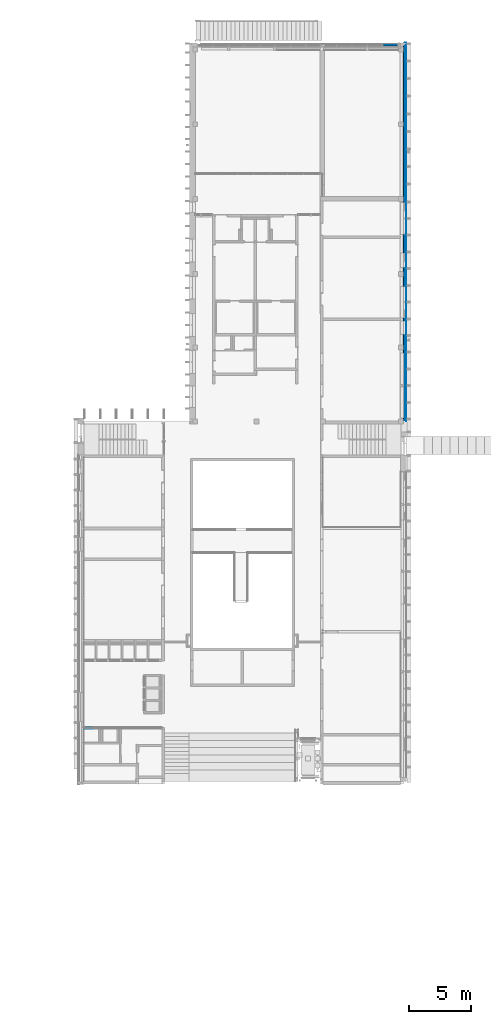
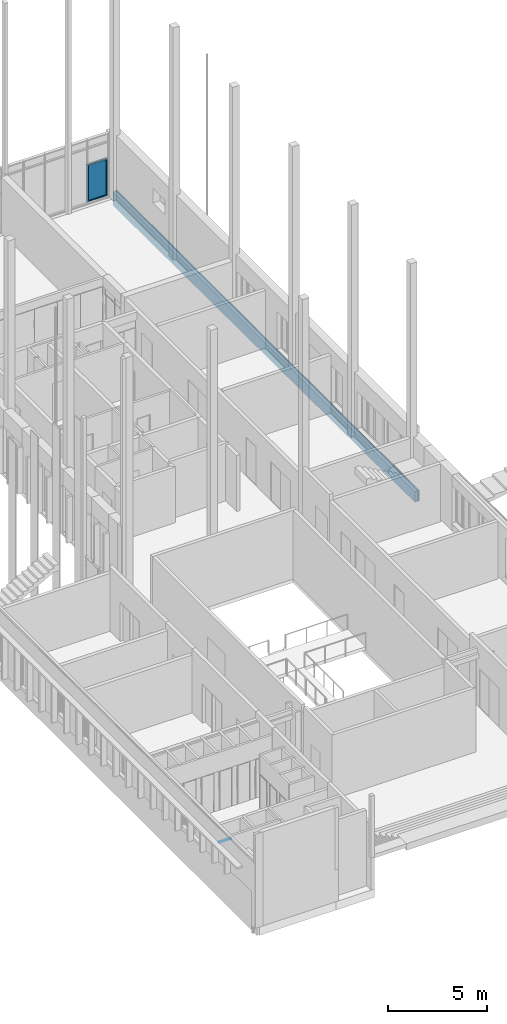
# One storey, part 64 of 89: 7 building element parts, 5 elements without a shape of their own.
"""IFC2X3 building model written with IfcOpenShell, lengths in millimetres."""

from ifc_helpers import new_model, entity, si_unit, converted_unit, derived_unit, money_unit, direction, frame, origin_with_axes, place, context, subcontext, project, spatial, polyline, outline, extrude, boolean, faceted_brep, material, type_object, element, aggregate, save


model = new_model("IFC2X3")

# Units and contexts
model_context = context("Model", 3, precision=0.01, world=origin_with_axes(), true_north=direction((0.0, 1.0)))
body_context = subcontext(model_context, "Body", "Model", "MODEL_VIEW")
ifc_project = project(units=[si_unit("LENGTHUNIT", "METRE", prefix="MILLI"), si_unit("AREAUNIT", "SQUARE_METRE"), si_unit("VOLUMEUNIT", "CUBIC_METRE"), converted_unit("PLANEANGLEUNIT", "DEGREE", entity("IfcPlaneAngleMeasure", 0.0174532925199), si_unit("PLANEANGLEUNIT", "RADIAN"), dimensions=[0, 0, 0, 0, 0, 0, 0]), si_unit("SOLIDANGLEUNIT", "STERADIAN"), money_unit("EUR"), converted_unit("TIMEUNIT", "Year", entity("IfcTimeMeasure", 31556926.0), si_unit("TIMEUNIT", "SECOND"), dimensions=[0, 0, 1, 0, 0, 0, 0]), si_unit("MASSUNIT", "GRAM", prefix="KILO"), si_unit("THERMODYNAMICTEMPERATUREUNIT", "DEGREE_CELSIUS"), si_unit("LUMINOUSINTENSITYUNIT", "LUMEN"), si_unit("ENERGYUNIT", "JOULE", prefix="MEGA"), derived_unit("THERMALCONDUCTANCEUNIT", [(si_unit("POWERUNIT", "WATT"), 1), (si_unit("LENGTHUNIT", "METRE"), -1), (si_unit("THERMODYNAMICTEMPERATUREUNIT", "KELVIN"), -1)]), derived_unit("SPECIFICHEATCAPACITYUNIT", [(si_unit("ENERGYUNIT", "JOULE"), 1), (si_unit("MASSUNIT", "GRAM", prefix="KILO"), -1), (si_unit("THERMODYNAMICTEMPERATUREUNIT", "KELVIN"), -1)]), derived_unit("MASSDENSITYUNIT", [(si_unit("MASSUNIT", "GRAM", prefix="KILO"), 1), (si_unit("VOLUMEUNIT", "CUBIC_METRE"), -1)])], contexts=[model_context])

# Site, building, storey
site_placement = place(None, origin_with_axes())
site = spatial("IfcSite", under=ifc_project, at=site_placement, Name="Puškini 31, Narva", CompositionType="ELEMENT")
building_placement = place(site_placement, origin_with_axes())
building = spatial("IfcBuilding", under=site, at=building_placement, Name="Narva Riigigümnaasium", CompositionType="ELEMENT")
storey_placement = place(building_placement, frame((0.0, 0.0, -3300.0), z_axis=(0.0, 0.0, 1.0), x_axis=(1.0, 0.0, 0.0)))
storey = spatial("IfcBuildingStorey", under=building, at=storey_placement, Name="1.korrus -3.3", CompositionType="ELEMENT", Elevation=-3300.0)

# Curtain wall, plate, building element part
curtain_wall_type = type_object("IfcCurtainWallType", Name="Curtain Wall Type", PredefinedType="NOTDEFINED")
curtain_wall_1_placement = place(storey_placement, frame((28798.9958137, 199279.999716, 0.0), z_axis=(0.0, 0.0, 1.0), x_axis=(1.0, 0.0, 0.0)))
curtain_wall_1 = element("IfcCurtainWall", 1, at=curtain_wall_1_placement, inside=storey, type_object=curtain_wall_type, Name="SUS-01")
plate_type_1 = type_object("IfcPlateType", Name="SA-Siseuksesüsteem-Paneel 700 x 10 x 0", PredefinedType="CURTAIN_PANEL")
plate_1_placement = place(curtain_wall_1_placement, frame((0.0, 0.0, 2394.9999372), z_axis=(0.0, 0.0, 1.0), x_axis=(-1.0, 0.0, 0.0)))
plate_1 = element("IfcPlate", 2, at=plate_1_placement, type_object=plate_type_1, Name="Panel-SA-Siseuks-090", ObjectType="CURTAIN_PANEL")
aggregate(curtain_wall_1, [plate_1])
ifc_material_1 = material(Name="MDF")
building_element_part_1_placement = place(plate_1_placement, origin_with_axes())
building_element_part_1 = element("IfcBuildingElementPart", 3, at=building_element_part_1_placement, material=ifc_material_1, Name="MDF", context=body_context, shape_type="Brep", body=[
    faceted_brep([(-350.004185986, 0.0, 5.0), (350.004185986, 0.0, 5.0), (350.004185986, 9.99999999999, 5.0), (-350.004185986, 9.99999999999, 5.0), (-350.004185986, 0.0, -5.0), (350.004185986, 0.0, -5.0), (350.004185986, 9.99999999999, -5.0), (-350.004185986, 9.99999999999, -5.0)], [[[0, 1, 2, 3]], [[0, 4, 5, 1]], [[1, 5, 6, 2]], [[3, 2, 6, 7]], [[4, 0, 3, 7]], [[5, 4, 7, 6]]]),
    faceted_brep([(-350.004185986, 84.0, 5.0), (350.004185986, 84.0, 5.0), (350.004185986, 92.0, 5.0), (-350.004185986, 92.0, 5.0), (-350.004185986, 84.0, -5.0), (350.004185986, 84.0, -5.0), (350.004185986, 92.0, -5.0), (-350.004185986, 92.0, -5.0)], [[[0, 1, 2, 3]], [[0, 4, 5, 1]], [[1, 5, 6, 2]], [[3, 2, 6, 7]], [[4, 0, 3, 7]], [[5, 4, 7, 6]]]),
])
aggregate(plate_1, [building_element_part_1])

# Wall, building element parts
wall_type = type_object("IfcWallType", Name="G-VS-04 508", PredefinedType="NOTDEFINED")
wall_placement = place(storey_placement, frame((54200.0000015, 254308.805854, -849.33771919), z_axis=(0.0, 0.0, 1.0), x_axis=(0.0, -1.0, 0.0)))
wall = element("IfcWall", 4, at=wall_placement, inside=storey, type_object=wall_type, Name="Välissein")
ifc_material_2 = material(Name="Salto-PIR soojustus")
building_element_part_2_placement = place(wall_placement, origin_with_axes())
building_element_part_2 = element("IfcBuildingElementPart", 5, at=building_element_part_2_placement, material=ifc_material_2, Name="Salto-PIR soojustus", context=body_context, shape_type="CSG", body=[
    boolean("DIFFERENCE", boolean("DIFFERENCE", boolean("DIFFERENCE", boolean("DIFFERENCE", boolean("DIFFERENCE", extrude(outline(polyline([(-258.0, 0.0), (30303.6319167, 0.0), (30303.6319167, 150.0), (-258.0, 150.0), (-258.0, 0.0)])), origin_with_axes(), (0.0, 0.0, 1.0), 849.33771919), faceted_brep([(-97.517674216, -250.0, 0.0), (-97.517674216, 0.0, 0.0), (30303.6319167, 0.0, 0.0), (30303.6319167, -250.0, 0.0), (30303.6319167, 0.0, 185.405352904), (30303.6319167, -250.0, 185.405352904)], [[[0, 1, 2, 3]], [[4, 1, 0, 5]], [[1, 4, 2]], [[4, 5, 3, 2]], [[5, 0, 3]]])), faceted_brep([(-97.517674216, 0.0, 0.0), (-97.517674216, 150.0, 0.0), (30303.6319167, 150.0, 0.0), (30303.6319167, 0.0, 0.0), (30303.6319167, 150.0, 185.405352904), (30303.6319167, 0.0, 185.405352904)], [[[0, 1, 2, 3]], [[4, 1, 0, 5]], [[1, 4, 2]], [[4, 5, 3, 2]], [[5, 0, 3]]])), faceted_brep([(-97.517674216, 150.0, 0.0), (-97.517674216, 200.0, 0.0), (30303.6319167, 200.0, 0.0), (30303.6319167, 150.0, 0.0), (30303.6319167, 200.0, 185.405352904), (30303.6319167, 150.0, 185.405352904)], [[[0, 1, 2, 3]], [[4, 1, 0, 5]], [[1, 4, 2]], [[4, 5, 3, 2]], [[5, 0, 3]]])), faceted_brep([(-97.517674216, 200.0, 0.0), (-97.517674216, 250.0, 0.0), (30303.6319167, 250.0, 0.0), (30303.6319167, 200.0, 0.0), (30303.6319167, 250.0, 185.405352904), (30303.6319167, 200.0, 185.405352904)], [[[0, 1, 2, 3]], [[4, 1, 0, 5]], [[1, 4, 2]], [[4, 5, 3, 2]], [[5, 0, 3]]])), faceted_brep([(-97.517674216, 250.0, 0.0), (-97.517674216, 258.0, 0.0), (30303.6319167, 258.0, 0.0), (30303.6319167, 250.0, 0.0), (30303.6319167, 258.0, 185.405352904), (30303.6319167, 250.0, 185.405352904)], [[[0, 1, 2, 3]], [[4, 1, 0, 5]], [[1, 4, 2]], [[4, 5, 3, 2]], [[5, 0, 3]]])),
])
building_element_part_3_placement = place(wall_placement, origin_with_axes())
building_element_part_3 = element("IfcBuildingElementPart", 6, at=building_element_part_3_placement, material=ifc_material_2, Name="Salto-PIR soojustus", context=body_context, shape_type="CSG", body=[
    boolean("DIFFERENCE", boolean("DIFFERENCE", boolean("DIFFERENCE", boolean("DIFFERENCE", boolean("DIFFERENCE", extrude(outline(polyline([(-258.0, 150.0), (30303.6319167, 150.0), (30303.6319167, 200.0), (-258.0, 200.0), (-258.0, 150.0)])), origin_with_axes(), (0.0, 0.0, 1.0), 849.33771919), faceted_brep([(-97.517674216, -250.0, 0.0), (-97.517674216, 0.0, 0.0), (30303.6319167, 0.0, 0.0), (30303.6319167, -250.0, 0.0), (30303.6319167, 0.0, 185.405352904), (30303.6319167, -250.0, 185.405352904)], [[[0, 1, 2, 3]], [[4, 1, 0, 5]], [[1, 4, 2]], [[4, 5, 3, 2]], [[5, 0, 3]]])), faceted_brep([(-97.517674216, 0.0, 0.0), (-97.517674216, 150.0, 0.0), (30303.6319167, 150.0, 0.0), (30303.6319167, 0.0, 0.0), (30303.6319167, 150.0, 185.405352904), (30303.6319167, 0.0, 185.405352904)], [[[0, 1, 2, 3]], [[4, 1, 0, 5]], [[1, 4, 2]], [[4, 5, 3, 2]], [[5, 0, 3]]])), faceted_brep([(-97.517674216, 150.0, 0.0), (-97.517674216, 200.0, 0.0), (30303.6319167, 200.0, 0.0), (30303.6319167, 150.0, 0.0), (30303.6319167, 200.0, 185.405352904), (30303.6319167, 150.0, 185.405352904)], [[[0, 1, 2, 3]], [[4, 1, 0, 5]], [[1, 4, 2]], [[4, 5, 3, 2]], [[5, 0, 3]]])), faceted_brep([(-97.517674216, 200.0, 0.0), (-97.517674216, 250.0, 0.0), (30303.6319167, 250.0, 0.0), (30303.6319167, 200.0, 0.0), (30303.6319167, 250.0, 185.405352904), (30303.6319167, 200.0, 185.405352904)], [[[0, 1, 2, 3]], [[4, 1, 0, 5]], [[1, 4, 2]], [[4, 5, 3, 2]], [[5, 0, 3]]])), faceted_brep([(-97.517674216, 250.0, 0.0), (-97.517674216, 258.0, 0.0), (30303.6319167, 258.0, 0.0), (30303.6319167, 250.0, 0.0), (30303.6319167, 258.0, 185.405352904), (30303.6319167, 250.0, 185.405352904)], [[[0, 1, 2, 3]], [[4, 1, 0, 5]], [[1, 4, 2]], [[4, 5, 3, 2]], [[5, 0, 3]]])),
])
ifc_material_3 = material(Name="Salto-roovitus")
building_element_part_4_placement = place(wall_placement, origin_with_axes())
building_element_part_4 = element("IfcBuildingElementPart", 7, at=building_element_part_4_placement, material=ifc_material_3, Name="Salto-roovitus", context=body_context, shape_type="CSG", body=[
    boolean("DIFFERENCE", boolean("DIFFERENCE", boolean("DIFFERENCE", boolean("DIFFERENCE", boolean("DIFFERENCE", extrude(outline(polyline([(-258.0, 200.0), (30303.6319167, 200.0), (30303.6319167, 250.0), (-258.0, 250.0), (-258.0, 200.0)])), origin_with_axes(), (0.0, 0.0, 1.0), 849.33771919), faceted_brep([(-97.517674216, -250.0, 0.0), (-97.517674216, 0.0, 0.0), (30303.6319167, 0.0, 0.0), (30303.6319167, -250.0, 0.0), (30303.6319167, 0.0, 185.405352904), (30303.6319167, -250.0, 185.405352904)], [[[0, 1, 2, 3]], [[4, 1, 0, 5]], [[1, 4, 2]], [[4, 5, 3, 2]], [[5, 0, 3]]])), faceted_brep([(-97.517674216, 0.0, 0.0), (-97.517674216, 150.0, 0.0), (30303.6319167, 150.0, 0.0), (30303.6319167, 0.0, 0.0), (30303.6319167, 150.0, 185.405352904), (30303.6319167, 0.0, 185.405352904)], [[[0, 1, 2, 3]], [[4, 1, 0, 5]], [[1, 4, 2]], [[4, 5, 3, 2]], [[5, 0, 3]]])), faceted_brep([(-97.517674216, 150.0, 0.0), (-97.517674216, 200.0, 0.0), (30303.6319167, 200.0, 0.0), (30303.6319167, 150.0, 0.0), (30303.6319167, 200.0, 185.405352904), (30303.6319167, 150.0, 185.405352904)], [[[0, 1, 2, 3]], [[4, 1, 0, 5]], [[1, 4, 2]], [[4, 5, 3, 2]], [[5, 0, 3]]])), faceted_brep([(-97.517674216, 200.0, 0.0), (-97.517674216, 250.0, 0.0), (30303.6319167, 250.0, 0.0), (30303.6319167, 200.0, 0.0), (30303.6319167, 250.0, 185.405352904), (30303.6319167, 200.0, 185.405352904)], [[[0, 1, 2, 3]], [[4, 1, 0, 5]], [[1, 4, 2]], [[4, 5, 3, 2]], [[5, 0, 3]]])), faceted_brep([(-97.517674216, 250.0, 0.0), (-97.517674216, 258.0, 0.0), (30303.6319167, 258.0, 0.0), (30303.6319167, 250.0, 0.0), (30303.6319167, 258.0, 185.405352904), (30303.6319167, 250.0, 185.405352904)], [[[0, 1, 2, 3]], [[4, 1, 0, 5]], [[1, 4, 2]], [[4, 5, 3, 2]], [[5, 0, 3]]])),
])
ifc_material_4 = material(Name="fassaadiplaat")
building_element_part_5_placement = place(wall_placement, origin_with_axes())
building_element_part_5 = element("IfcBuildingElementPart", 8, at=building_element_part_5_placement, material=ifc_material_4, Name="fassaadiplaat", context=body_context, shape_type="CSG", body=[
    boolean("DIFFERENCE", boolean("DIFFERENCE", boolean("DIFFERENCE", boolean("DIFFERENCE", boolean("DIFFERENCE", extrude(outline(polyline([(-258.0, 250.0), (30303.6319167, 250.0), (30303.6319167, 258.0), (-258.0, 258.0), (-258.0, 250.0)])), origin_with_axes(), (0.0, 0.0, 1.0), 849.33771919), faceted_brep([(-97.517674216, -250.0, 0.0), (-97.517674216, 0.0, 0.0), (30303.6319167, 0.0, 0.0), (30303.6319167, -250.0, 0.0), (30303.6319167, 0.0, 185.405352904), (30303.6319167, -250.0, 185.405352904)], [[[0, 1, 2, 3]], [[4, 1, 0, 5]], [[1, 4, 2]], [[4, 5, 3, 2]], [[5, 0, 3]]])), faceted_brep([(-97.517674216, 0.0, 0.0), (-97.517674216, 150.0, 0.0), (30303.6319167, 150.0, 0.0), (30303.6319167, 0.0, 0.0), (30303.6319167, 150.0, 185.405352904), (30303.6319167, 0.0, 185.405352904)], [[[0, 1, 2, 3]], [[4, 1, 0, 5]], [[1, 4, 2]], [[4, 5, 3, 2]], [[5, 0, 3]]])), faceted_brep([(-97.517674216, 150.0, 0.0), (-97.517674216, 200.0, 0.0), (30303.6319167, 200.0, 0.0), (30303.6319167, 150.0, 0.0), (30303.6319167, 200.0, 185.405352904), (30303.6319167, 150.0, 185.405352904)], [[[0, 1, 2, 3]], [[4, 1, 0, 5]], [[1, 4, 2]], [[4, 5, 3, 2]], [[5, 0, 3]]])), faceted_brep([(-97.517674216, 200.0, 0.0), (-97.517674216, 250.0, 0.0), (30303.6319167, 250.0, 0.0), (30303.6319167, 200.0, 0.0), (30303.6319167, 250.0, 185.405352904), (30303.6319167, 200.0, 185.405352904)], [[[0, 1, 2, 3]], [[4, 1, 0, 5]], [[1, 4, 2]], [[4, 5, 3, 2]], [[5, 0, 3]]])), faceted_brep([(-97.517674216, 250.0, 0.0), (-97.517674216, 258.0, 0.0), (30303.6319167, 258.0, 0.0), (30303.6319167, 250.0, 0.0), (30303.6319167, 258.0, 185.405352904), (30303.6319167, 250.0, 185.405352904)], [[[0, 1, 2, 3]], [[4, 1, 0, 5]], [[1, 4, 2]], [[4, 5, 3, 2]], [[5, 0, 3]]])),
])
aggregate(wall, [building_element_part_2, building_element_part_3, building_element_part_4, building_element_part_5])

# Curtain wall, plate, building element parts
curtain_wall_2_placement = place(storey_placement, frame((47634.9999923, 254360.0, -1.86566340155e-05), z_axis=(0.0, 0.0, 1.0), x_axis=(1.0, 0.0, 0.0)))
curtain_wall_2 = element("IfcCurtainWall", 9, at=curtain_wall_2_placement, inside=storey, type_object=curtain_wall_type, Name="G-KLF-06")
plate_type_2 = type_object("IfcPlateType", Name="2 x 2355 x 20", PredefinedType="CURTAIN_PANEL")
plate_2_placement = place(curtain_wall_2_placement, frame((5444.8887336, 0.0, 1371.42858707), z_axis=(0.0, 0.0, 1.0), x_axis=(-1.0, 0.0, 0.0)))
plate_2 = element("IfcPlate", 10, at=plate_2_placement, type_object=plate_type_2, Name="G-KLF-06-A1", ObjectType="CURTAIN_PANEL")
aggregate(curtain_wall_2, [plate_2])
ifc_material_5 = material(Name="ET-04_Alumiinium")
building_element_part_6_placement = place(plate_2_placement, origin_with_axes())
building_element_part_6 = element("IfcBuildingElementPart", 11, at=building_element_part_6_placement, material=ifc_material_5, Name="ET-04_Alumiinium", context=body_context, shape_type="Brep", body=[
    faceted_brep([(512.388706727, -20.0, -1321.4285865), (512.388706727, -25.0, -1321.4285865), (-670.111271, -25.0, -1321.4285865), (-670.111271, -20.0, -1321.4285865), (467.388706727, -20.0, -1276.4285865), (467.388706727, -25.0, -1276.4285865), (-625.111271, -25.0, -1276.4285865), (-625.111271, -20.0, -1276.4285865)], [[[0, 1, 2, 3]], [[4, 5, 1, 0]], [[1, 5, 6, 2]], [[3, 2, 6, 7]], [[0, 3, 7, 4]], [[7, 6, 5, 4]]]),
    faceted_brep([(-670.111271, -20.0, -1321.4285865), (-670.111271, -25.0, -1321.4285865), (-670.111271, -25.0, 1003.57144002), (-670.111271, -20.0, 1003.57144002), (-625.111271, -20.0, -1276.4285865), (-625.111271, -25.0, -1276.4285865), (-625.111271, -25.0, 958.57144002), (-625.111271, -20.0, 958.57144002)], [[[0, 1, 2, 3]], [[4, 5, 1, 0]], [[1, 5, 6, 2]], [[3, 2, 6, 7]], [[0, 3, 7, 4]], [[7, 6, 5, 4]]]),
    faceted_brep([(512.388706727, -20.0, 1003.57144002), (512.388706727, -25.0, 1003.57144002), (467.388706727, -25.0, 958.57144002), (467.388706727, -20.0, 958.57144002), (-670.111271, -20.0, 1003.57144002), (-670.111271, -25.0, 1003.57144002), (-625.111271, -25.0, 958.57144002), (-625.111271, -20.0, 958.57144002)], [[[0, 1, 2, 3]], [[4, 5, 1, 0]], [[1, 5, 6, 2]], [[3, 2, 6, 7]], [[0, 3, 7, 4]], [[7, 6, 5, 4]]]),
    faceted_brep([(512.388706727, -20.0, -1321.4285865), (512.388706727, -25.0, -1321.4285865), (467.388706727, -25.0, -1276.4285865), (467.388706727, -20.0, -1276.4285865), (512.388706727, -20.0, 1003.57144002), (512.388706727, -25.0, 1003.57144002), (467.388706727, -25.0, 958.57144002), (467.388706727, -20.0, 958.57144002)], [[[0, 1, 2, 3]], [[4, 5, 1, 0]], [[1, 5, 6, 2]], [[3, 2, 6, 7]], [[0, 3, 7, 4]], [[7, 6, 5, 4]]]),
    faceted_brep([(512.388706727, 30.0, -1321.4285865), (512.388706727, -20.0, -1321.4285865), (-670.111271, -20.0, -1321.4285865), (-670.111271, 30.0, -1321.4285865), (492.388706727, 30.0, -1301.4285865), (492.388706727, -20.0, -1301.4285865), (-650.111271, -20.0, -1301.4285865), (-650.111271, 30.0, -1301.4285865)], [[[0, 1, 2, 3]], [[4, 5, 1, 0]], [[1, 5, 6, 2]], [[3, 2, 6, 7]], [[0, 3, 7, 4]], [[7, 6, 5, 4]]]),
    faceted_brep([(-670.111271, 30.0, -1321.4285865), (-670.111271, -20.0, -1321.4285865), (-670.111271, -20.0, 1003.57144002), (-670.111271, 30.0, 1003.57144002), (-650.111271, 30.0, -1301.4285865), (-650.111271, -20.0, -1301.4285865), (-650.111271, -20.0, 983.57144002), (-650.111271, 30.0, 983.57144002)], [[[0, 1, 2, 3]], [[4, 5, 1, 0]], [[1, 5, 6, 2]], [[3, 2, 6, 7]], [[0, 3, 7, 4]], [[7, 6, 5, 4]]]),
    faceted_brep([(512.388706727, 30.0, 1003.57144002), (512.388706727, -20.0, 1003.57144002), (492.388706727, -20.0, 983.57144002), (492.388706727, 30.0, 983.57144002), (-670.111271, 30.0, 1003.57144002), (-670.111271, -20.0, 1003.57144002), (-650.111271, -20.0, 983.57144002), (-650.111271, 30.0, 983.57144002)], [[[0, 1, 2, 3]], [[4, 5, 1, 0]], [[1, 5, 6, 2]], [[3, 2, 6, 7]], [[0, 3, 7, 4]], [[7, 6, 5, 4]]]),
    faceted_brep([(512.388706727, 30.0, -1321.4285865), (512.388706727, -20.0, -1321.4285865), (492.388706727, -20.0, -1301.4285865), (492.388706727, 30.0, -1301.4285865), (512.388706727, 30.0, 1003.57144002), (512.388706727, -20.0, 1003.57144002), (492.388706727, -20.0, 983.57144002), (492.388706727, 30.0, 983.57144002)], [[[0, 1, 2, 3]], [[4, 5, 1, 0]], [[1, 5, 6, 2]], [[3, 2, 6, 7]], [[0, 3, 7, 4]], [[7, 6, 5, 4]]]),
    faceted_brep([(527.388706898, 9.99999999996, -1336.42858667), (527.388706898, -10.0, -1336.42858667), (-685.111271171, -10.0, -1336.42858667), (-685.111271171, 9.99999999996, -1336.42858667), (512.388706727, 9.99999999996, -1321.4285865), (512.388706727, -10.0, -1321.4285865), (-670.111271, -10.0, -1321.4285865), (-670.111271, 9.99999999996, -1321.4285865)], [[[0, 1, 2, 3]], [[4, 5, 1, 0]], [[1, 5, 6, 2]], [[3, 2, 6, 7]], [[0, 3, 7, 4]], [[7, 6, 5, 4]]]),
    faceted_brep([(-685.111271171, 9.99999999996, -1336.42858667), (-685.111271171, -10.0, -1336.42858667), (-685.111271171, -10.0, 1018.57144019), (-685.111271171, 9.99999999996, 1018.57144019), (-670.111271, 9.99999999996, -1321.4285865), (-670.111271, -10.0, -1321.4285865), (-670.111271, -10.0, 1003.57144002), (-670.111271, 9.99999999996, 1003.57144002)], [[[0, 1, 2, 3]], [[4, 5, 1, 0]], [[1, 5, 6, 2]], [[3, 2, 6, 7]], [[0, 3, 7, 4]], [[7, 6, 5, 4]]]),
    faceted_brep([(-685.111271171, 9.99999999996, 1018.57144019), (-685.111271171, -10.0, 1018.57144019), (527.388706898, -10.0, 1018.57144019), (527.388706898, 9.99999999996, 1018.57144019), (-670.111271, 9.99999999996, 1003.57144002), (-670.111271, -10.0, 1003.57144002), (512.388706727, -10.0, 1003.57144002), (512.388706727, 9.99999999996, 1003.57144002)], [[[0, 1, 2, 3]], [[4, 5, 1, 0]], [[1, 5, 6, 2]], [[3, 2, 6, 7]], [[0, 3, 7, 4]], [[7, 6, 5, 4]]]),
    faceted_brep([(527.388706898, 9.99999999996, 1018.57144019), (527.388706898, -10.0, 1018.57144019), (527.388706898, -10.0, -1336.42858667), (527.388706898, 9.99999999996, -1336.42858667), (512.388706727, 9.99999999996, 1003.57144002), (512.388706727, -10.0, 1003.57144002), (512.388706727, -10.0, -1321.4285865), (512.388706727, 9.99999999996, -1321.4285865)], [[[0, 1, 2, 3]], [[4, 5, 1, 0]], [[1, 5, 6, 2]], [[3, 2, 6, 7]], [[0, 3, 7, 4]], [[7, 6, 5, 4]]]),
    faceted_brep([(447.388706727, -20.0, -1256.4285865), (447.388706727, -20.0, 938.57144002), (447.388706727, 35.0, 938.57144002), (447.388706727, 35.0, -1256.4285865), (492.388706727, -20.0, -1301.4285865), (492.388706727, -20.0, 983.57144002), (492.388706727, 35.0, 983.57144002), (492.388706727, 35.0, -1301.4285865)], [[[0, 1, 2, 3]], [[0, 4, 5, 1]], [[1, 5, 6, 2]], [[3, 2, 6, 7]], [[4, 0, 3, 7]], [[5, 4, 7, 6]]]),
    faceted_brep([(-650.111271, -20.0, -1301.4285865), (-650.111271, -20.0, 983.57144002), (-650.111271, 35.0, 983.57144002), (-650.111271, 35.0, -1301.4285865), (-605.111271, -20.0, -1256.4285865), (-605.111271, -20.0, 938.57144002), (-605.111271, 35.0, 938.57144002), (-605.111271, 35.0, -1256.4285865)], [[[0, 1, 2, 3]], [[0, 4, 5, 1]], [[1, 5, 6, 2]], [[3, 2, 6, 7]], [[4, 0, 3, 7]], [[5, 4, 7, 6]]]),
    faceted_brep([(-650.111271, -20.0, -1301.4285865), (-605.111271, -20.0, -1256.4285865), (-605.111271, 35.0, -1256.4285865), (-650.111271, 35.0, -1301.4285865), (492.388706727, -20.0, -1301.4285865), (447.388706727, -20.0, -1256.4285865), (447.388706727, 35.0, -1256.4285865), (492.388706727, 35.0, -1301.4285865)], [[[0, 1, 2, 3]], [[0, 4, 5, 1]], [[1, 5, 6, 2]], [[3, 2, 6, 7]], [[4, 0, 3, 7]], [[5, 4, 7, 6]]]),
    faceted_brep([(492.388706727, -20.0, 983.57144002), (447.388706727, -20.0, 938.57144002), (447.388706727, 35.0, 938.57144002), (492.388706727, 35.0, 983.57144002), (-650.111271, -20.0, 983.57144002), (-605.111271, -20.0, 938.57144002), (-605.111271, 35.0, 938.57144002), (-650.111271, 35.0, 983.57144002)], [[[0, 1, 2, 3]], [[0, 4, 5, 1]], [[1, 5, 6, 2]], [[3, 2, 6, 7]], [[4, 0, 3, 7]], [[5, 4, 7, 6]]]),
])
ifc_material_6 = material(Name="VKR-05_Klaas")
building_element_part_7_placement = place(plate_2_placement, origin_with_axes())
building_element_part_7 = element("IfcBuildingElementPart", 12, at=building_element_part_7_placement, material=ifc_material_6, Name="VKR-05_Klaas", context=body_context, shape_type="Brep", body=[
    faceted_brep([(447.388706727, -10.0, -1256.4285865), (-605.111271, -10.0, -1256.4285865), (-605.111271, 5.99999999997, -1256.4285865), (447.388706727, 5.99999999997, -1256.4285865), (447.388706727, -10.0, 938.57144002), (-605.111271, -10.0, 938.57144002), (-605.111271, 5.99999999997, 938.57144002), (447.388706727, 5.99999999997, 938.57144002)], [[[0, 1, 2, 3]], [[0, 4, 5, 1]], [[1, 5, 6, 2]], [[3, 2, 6, 7]], [[4, 0, 3, 7]], [[5, 4, 7, 6]]]),
])
aggregate(plate_2, [building_element_part_6, building_element_part_7])

save(model, "model.ifc")
